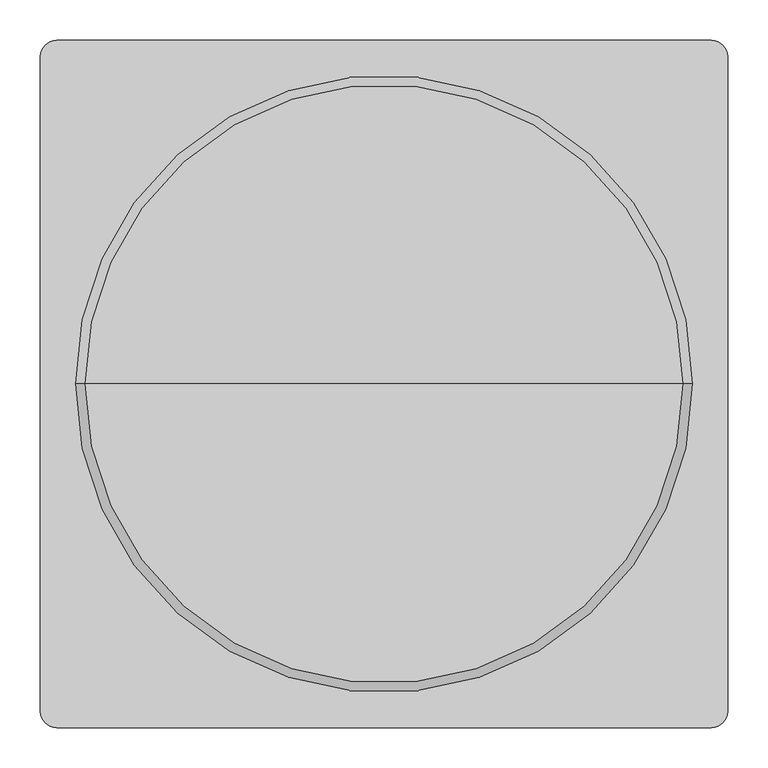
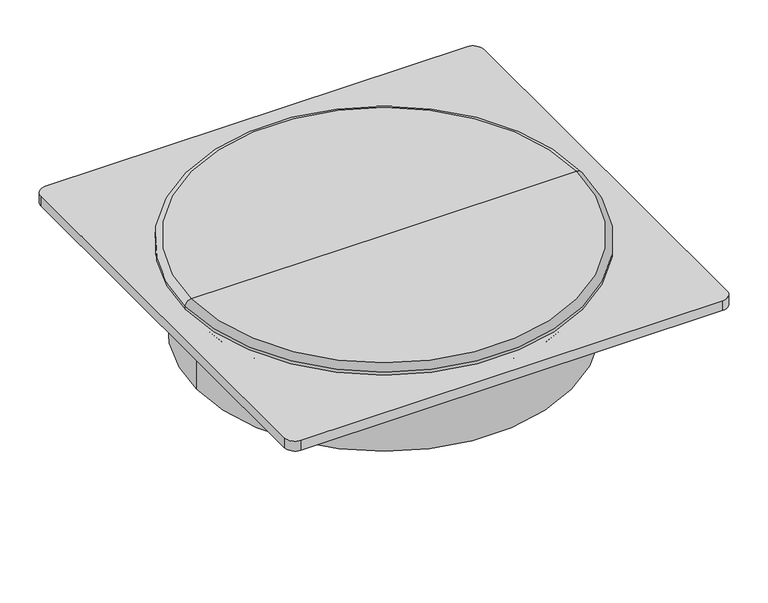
"""IFC4 building model written with IfcOpenShell, lengths in millimetres: unitary equipment geometry, VE-Wentylator-ParaForma-Harmann-WAF-Wywiewny : 710/4/27000T."""

from ifc_helpers import new_model, si_unit, point, frame, frame_2d, origin, origin_with_axes, origin_2d, place, context, project, spatial, polyline, circle_curve, ellipse_curve, trimmed, segment, composite_curve, outline, extrude, source, transform, mapped, element, save
from ifc_brep_helpers import plane_surface, cylinder_surface, revolved_surface, advanced_brep


def unitary_equipment_7aae4025(model_context):
    return source(origin(), model_context, "Body", "SolidModel", [
        advanced_brep(
        [(381.5, 0.0, 20.0), (-381.5, 0.0, 20.0), (0.0, 0.0, 20.0), (381.5, 0.0, 25.6666667), (-381.5, 0.0, 25.6666667), (370.1666667, 0.0, 37.0), (-370.1666667, 0.0, 37.0), (0.0, 0.0, 37.0)],
        [
            (0, 1, circle_curve(frame((0.0, 0.0, 20.0), z_axis=(0.0, 0.0, -1.0), x_axis=(-1.0000000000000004, 0.0, 0.0)), 381.5)),
            (1, 2),
            (2, 0),
            (1, 0, circle_curve(frame((0.0, 0.0, 20.0), z_axis=(0.0, 0.0, -1.0), x_axis=(-1.0000000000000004, 0.0, 0.0)), 381.5)),
            (3, 4, circle_curve(frame((0.0, 0.0, 25.6666667), z_axis=(0.0, 0.0, -1.0), x_axis=(-1.0000000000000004, 0.0, 0.0)), 381.5)),
            (4, 1),
            (0, 3),
            (4, 3, circle_curve(frame((0.0, 0.0, 25.6666667), z_axis=(0.0, 0.0, -1.0), x_axis=(-1.0000000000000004, 0.0, 0.0)), 381.5)),
            (5, 6, circle_curve(frame((0.0, 0.0, 37.0), z_axis=(0.0, 0.0, -1.0), x_axis=(-1.0000000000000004, 0.0, 0.0)), 370.1666667)),
            (6, 4, circle_curve(frame((-370.1666667, 0.0, 25.6666667), z_axis=(0.0, -1.0000000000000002, 0.0), x_axis=(0.0, 0.0, -1.0000000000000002)), 11.3333333)),
            (3, 5, circle_curve(frame((370.1666667, 0.0, 25.6666667), z_axis=(0.0, -1.0000000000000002, 0.0), x_axis=(0.0, 0.0, -1.0000000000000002)), 11.3333333)),
            (6, 5, circle_curve(frame((0.0, 0.0, 37.0), z_axis=(0.0, 0.0, -1.0), x_axis=(-1.0000000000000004, 0.0, 0.0)), 370.1666667)),
            (7, 6),
            (5, 7),
        ],
        [
            plane_surface(frame((0.0, 0.0, 20.0), z_axis=(0.0, 0.0, -1.0), x_axis=(-1.0, 0.0, 0.0))),
            cylinder_surface(frame((0.0, 0.0, 37.0), z_axis=(0.0, 0.0, 1.0000000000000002), x_axis=(-1.0000000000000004, 0.0, 0.0)), 381.5),
            revolved_surface(trimmed(ellipse_curve(frame((-370.1666667, 0.0, 25.6666667), z_axis=(0.0, 1.0000000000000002, 0.0), x_axis=(0.0, 0.0, -1.0000000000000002)), 11.3333333, 11.3333333), [point((-381.5, 0.0, 25.6666667))], [point((-370.1666667, 0.0, 37.0))], True, "CARTESIAN"), (0.0, 0.0, 37.0), (0.0, 0.0, 1.0000000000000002)),
            plane_surface(frame((0.0, 0.0, 37.0), z_axis=(0.0, 0.0, 1.0), x_axis=(-1.0, 0.0, 0.0))),
        ],
        [
            (0, [[1, 2, 3]]),
            (0, [[4, -3, -2]]),
            (1, [[5, 6, -1, 7]]),
            (1, [[8, -7, -4, -6]]),
            (2, [[9, 10, -5, 11]]),
            (2, [[12, -11, -8, -10]]),
            (3, [[13, -9, 14]]),
            (3, [[-14, -12, -13]]),
        ],
    ),
        extrude(outline(composite_curve([segment(trimmed(circle_curve(origin_2d(), 114.45), [point((114.45, 0.0))], [point((-114.45, 0.0))], False, "CARTESIAN"), True, "CONTINUOUS"), segment(trimmed(circle_curve(origin_2d(), 114.45), [point((-114.45, 0.0))], [point((114.45, 0.0))], False, "CARTESIAN"), True, "CONTINUOUS")], self_intersect=False)), frame((0.0, 0.0, -232.0), z_axis=(0.0, 0.0, 1.0), x_axis=(1.0, 0.0, 0.0)), (0.0, 0.0, 1.0), 82.0),
        advanced_brep(
        [(0.0, 0.0, 0.0), (-381.5, 0.0, 0.0), (381.5, 0.0, 0.0), (360.0, 0.0, -150.0), (-360.0, 0.0, -150.0), (0.0, 0.0, -150.0), (360.0, 0.0, -21.5), (-360.0, 0.0, -21.5)],
        [
            (0, 1),
            (1, 2, circle_curve(frame((0.0, 0.0, 0.0), z_axis=(0.0, 0.0, 1.0), x_axis=(-1.0000000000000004, 0.0, 0.0)), 381.5)),
            (2, 0),
            (2, 1, circle_curve(frame((0.0, 0.0, 0.0), z_axis=(0.0, 0.0, 1.0), x_axis=(-1.0000000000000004, 0.0, 0.0)), 381.5)),
            (3, 4, circle_curve(frame((0.0, 0.0, -150.0), z_axis=(0.0, 0.0, -1.0), x_axis=(-1.0000000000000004, 0.0, 0.0)), 360.0)),
            (4, 5),
            (5, 3),
            (4, 3, circle_curve(frame((0.0, 0.0, -150.0), z_axis=(0.0, 0.0, -1.0), x_axis=(-1.0000000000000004, 0.0, 0.0)), 360.0)),
            (6, 7, circle_curve(frame((0.0, 0.0, -21.5), z_axis=(0.0, 0.0, -1.0), x_axis=(-1.0000000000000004, 0.0, 0.0)), 360.0)),
            (7, 4),
            (3, 6),
            (7, 6, circle_curve(frame((0.0, 0.0, -21.5), z_axis=(0.0, 0.0, -1.0), x_axis=(-1.0000000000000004, 0.0, 0.0)), 360.0)),
            (1, 7, circle_curve(frame((-381.5, 0.0, -21.5), z_axis=(0.0, 1.0000000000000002, 0.0), x_axis=(0.0, 0.0, -1.0000000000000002)), 21.5)),
            (6, 2, circle_curve(frame((381.5, 0.0, -21.5), z_axis=(0.0, 1.0000000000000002, 0.0), x_axis=(0.0, 0.0, -1.0000000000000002)), 21.5)),
        ],
        [
            plane_surface(frame((0.0, 0.0, 0.0), z_axis=(0.0, 0.0, 1.0), x_axis=(-1.0, 0.0, 0.0))),
            plane_surface(frame((0.0, 0.0, -150.0), z_axis=(0.0, 0.0, -1.0), x_axis=(-1.0, 0.0, 0.0))),
            cylinder_surface(frame((0.0, 0.0, 0.0), z_axis=(0.0, 0.0, 1.0000000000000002), x_axis=(-1.0000000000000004, 0.0, 0.0)), 360.0),
            revolved_surface(trimmed(ellipse_curve(frame((-381.5, 0.0, -21.5), z_axis=(0.0, -1.0000000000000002, 0.0), x_axis=(0.0, 0.0, -1.0000000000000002)), 21.5, 21.5), [point((-360.0, 0.0, -21.5))], [point((-381.5, 0.0, 0.0))], True, "CARTESIAN"), (0.0, 0.0, 0.0), (0.0, 0.0, 1.0000000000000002)),
        ],
        [
            (0, [[1, 2, 3]]),
            (0, [[-3, 4, -1]]),
            (1, [[5, 6, 7]]),
            (1, [[8, -7, -6]]),
            (2, [[9, 10, -5, 11]]),
            (2, [[12, -11, -8, -10]]),
            (3, [[-2, 13, -9, 14]]),
            (3, [[-4, -14, -12, -13]]),
        ],
    ),
        extrude(outline(composite_curve([segment(polyline([(405.0, -425.0), (-405.0, -425.0)]), True, "CONTINUOUS"), segment(trimmed(circle_curve(frame_2d((-405.0, -405.0)), 20.0), [point((-405.0, -425.0))], [point((-425.0, -405.0))], False, "CARTESIAN"), True, "CONTINUOUS"), segment(polyline([(-425.0, -405.0), (-425.0, 405.0)]), True, "CONTINUOUS"), segment(trimmed(circle_curve(frame_2d((-405.0, 405.0)), 20.0), [point((-425.0, 405.0))], [point((-405.0, 425.0))], False, "CARTESIAN"), True, "CONTINUOUS"), segment(polyline([(-405.0, 425.0), (405.0, 425.0)]), True, "CONTINUOUS"), segment(trimmed(circle_curve(frame_2d((405.0, 405.0)), 20.0), [point((405.0, 425.0))], [point((425.0, 405.0))], False, "CARTESIAN"), True, "CONTINUOUS"), segment(polyline([(425.0, 405.0), (425.0, -405.0)]), True, "CONTINUOUS"), segment(trimmed(circle_curve(frame_2d((405.0, -405.0)), 20.0), [point((425.0, -405.0))], [point((405.0, -425.0))], False, "CARTESIAN"), True, "CONTINUOUS")], self_intersect=False)), origin_with_axes(), (0.0, 0.0, 1.0), 20.0),
    ])


if __name__ == "__main__":
    model = new_model("IFC4")
    model_context = context("Model", 3, world=origin())
    ifc_project = project(units=[si_unit("LENGTHUNIT", "METRE", prefix="MILLI")], contexts=[model_context])
    site = spatial("IfcSite", under=ifc_project)
    building = spatial("IfcBuilding", under=site)
    placement = place(None, origin())
    unitary_equipment_shape = unitary_equipment_7aae4025(model_context)
    element("IfcUnitaryEquipment", 1, ObjectType="VE-Wentylator-ParaForma-Harmann-WAF-Wywiewny : 710/4/27000T", at=placement, inside=building, context=model_context, shape_type="MappedRepresentation", body=[
        mapped(unitary_equipment_shape, transform((0.0, 0.0, 0.0), x_axis=(1.0, 0.0, 0.0), y_axis=(0.0, 1.0, 0.0), z_axis=(0.0, 0.0, 1.0))),
    ])
    save(model, "model.ifc")
